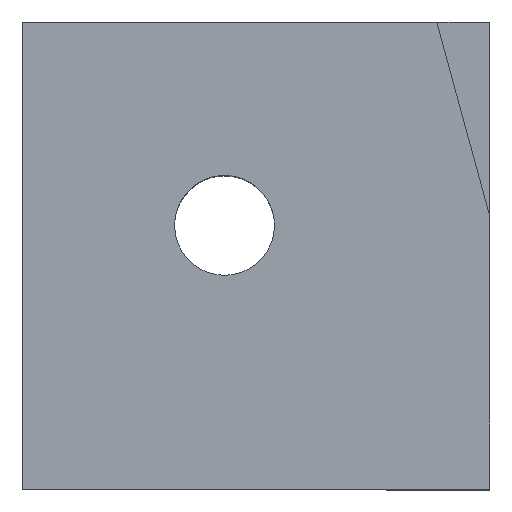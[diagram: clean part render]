
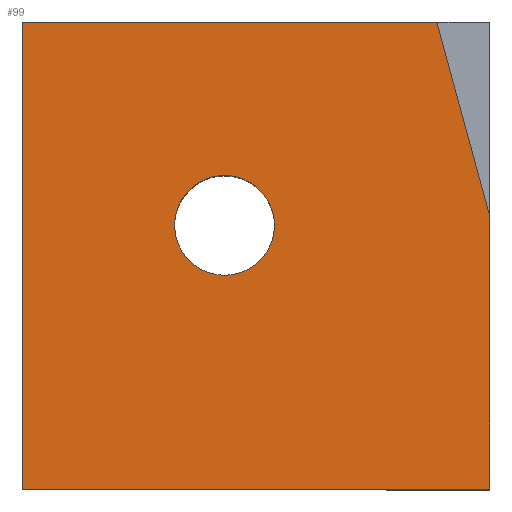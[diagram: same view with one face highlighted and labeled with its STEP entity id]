
A CAD part, top view. The second image highlights one B-rep face of the part: STEP entity #99.
In plain terms, the highlighted planar face has unit normal (0, 0, 1).
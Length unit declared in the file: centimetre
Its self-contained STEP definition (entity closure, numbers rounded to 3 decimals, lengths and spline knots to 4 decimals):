
#8 = DIRECTION ( 'NONE',  ( 1., 0., 0. ) ) ;
#11 = DIRECTION ( 'NONE',  ( 0.263, -0.965, 0. ) ) ;
#12 = CARTESIAN_POINT ( 'NONE',  ( 0., 1000., 1000. ) ) ;
#16 = FACE_BOUND ( 'NONE', #97, .T. ) ;
#25 = CARTESIAN_POINT ( 'NONE',  ( 1000., 585.9937, 1000. ) ) ;
#28 = LINE ( 'NONE', #401, #317 ) ;
#43 = LINE ( 'NONE', #12, #129 ) ;
#48 = EDGE_CURVE ( 'NONE', #288, #61, #151, .T. ) ;
#56 = VERTEX_POINT ( 'NONE', #122 ) ;
#60 = ORIENTED_EDGE ( 'NONE', *, *, #377, .T. ) ;
#61 = VERTEX_POINT ( 'NONE', #25 ) ;
#62 = EDGE_LOOP ( 'NONE', ( #269, #292, #168, #60, #96 ) ) ;
#63 = EDGE_CURVE ( 'NONE', #206, #56, #43, .T. ) ;
#70 = VECTOR ( 'NONE', #8, 100. ) ;
#85 = DIRECTION ( 'NONE',  ( 0., 0., -1. ) ) ;
#96 = ORIENTED_EDGE ( 'NONE', *, *, #48, .T. ) ;
#97 = EDGE_LOOP ( 'NONE', ( #204, #410 ) ) ;
#99 = ADVANCED_FACE ( 'NONE', ( #16, #418 ), #156, .T. ) ;
#107 = CIRCLE ( 'NONE', #338, 106.9421 ) ;
#109 = DIRECTION ( 'NONE',  ( 0., 0., 1. ) ) ;
#113 = DIRECTION ( 'NONE',  ( 0., -1., 0. ) ) ;
#122 = CARTESIAN_POINT ( 'NONE',  ( 0., 0., 1000. ) ) ;
#129 = VECTOR ( 'NONE', #113, 100. ) ;
#134 = CIRCLE ( 'NONE', #379, 106.9421 ) ;
#137 = EDGE_CURVE ( 'NONE', #323, #206, #28, .T. ) ;
#151 = LINE ( 'NONE', #423, #415 ) ;
#153 = LINE ( 'NONE', #311, #177 ) ;
#156 = PLANE ( 'NONE',  #202 ) ;
#168 = ORIENTED_EDGE ( 'NONE', *, *, #63, .T. ) ;
#174 = EDGE_CURVE ( 'NONE', #197, #442, #134, .T. ) ;
#177 = VECTOR ( 'NONE', #11, 100. ) ;
#180 = CARTESIAN_POINT ( 'NONE',  ( 887.0786, 1000., 1000. ) ) ;
#189 = CARTESIAN_POINT ( 'NONE',  ( 325.6752, 564.7779, 1000. ) ) ;
#197 = VERTEX_POINT ( 'NONE', #189 ) ;
#202 = AXIS2_PLACEMENT_3D ( 'NONE', #284, #109, #287 ) ;
#204 = ORIENTED_EDGE ( 'NONE', *, *, #174, .T. ) ;
#206 = VERTEX_POINT ( 'NONE', #294 ) ;
#214 = DIRECTION ( 'NONE',  ( -1., 0., 0. ) ) ;
#253 = CARTESIAN_POINT ( 'NONE',  ( 432.6173, 564.7779, 1000. ) ) ;
#254 = DIRECTION ( 'NONE',  ( -1., 0., 0. ) ) ;
#269 = ORIENTED_EDGE ( 'NONE', *, *, #339, .F. ) ;
#284 = CARTESIAN_POINT ( 'NONE',  ( 0., 0., 1000. ) ) ;
#287 = DIRECTION ( 'NONE',  ( 1., 0., 0. ) ) ;
#288 = VERTEX_POINT ( 'NONE', #424 ) ;
#292 = ORIENTED_EDGE ( 'NONE', *, *, #137, .T. ) ;
#293 = EDGE_CURVE ( 'NONE', #442, #197, #107, .T. ) ;
#294 = CARTESIAN_POINT ( 'NONE',  ( 0., 1000., 1000. ) ) ;
#305 = CARTESIAN_POINT ( 'NONE',  ( 0., 0., 1000. ) ) ;
#307 = DIRECTION ( 'NONE',  ( 0., 1., 0. ) ) ;
#311 = CARTESIAN_POINT ( 'NONE',  ( 1000., 585.9937, 1000. ) ) ;
#317 = VECTOR ( 'NONE', #254, 100. ) ;
#320 = CARTESIAN_POINT ( 'NONE',  ( 432.6173, 564.7779, 1000. ) ) ;
#323 = VERTEX_POINT ( 'NONE', #180 ) ;
#338 = AXIS2_PLACEMENT_3D ( 'NONE', #253, #387, #214 ) ;
#339 = EDGE_CURVE ( 'NONE', #323, #61, #153, .T. ) ;
#340 = LINE ( 'NONE', #305, #70 ) ;
#377 = EDGE_CURVE ( 'NONE', #56, #288, #340, .T. ) ;
#379 = AXIS2_PLACEMENT_3D ( 'NONE', #320, #85, #434 ) ;
#382 = CARTESIAN_POINT ( 'NONE',  ( 539.5594, 564.7779, 1000. ) ) ;
#387 = DIRECTION ( 'NONE',  ( 0., 0., -1. ) ) ;
#401 = CARTESIAN_POINT ( 'NONE',  ( 0., 1000., 1000. ) ) ;
#410 = ORIENTED_EDGE ( 'NONE', *, *, #293, .T. ) ;
#415 = VECTOR ( 'NONE', #307, 100. ) ;
#418 = FACE_OUTER_BOUND ( 'NONE', #62, .T. ) ;
#423 = CARTESIAN_POINT ( 'NONE',  ( 1000., 1000., 1000. ) ) ;
#424 = CARTESIAN_POINT ( 'NONE',  ( 1000., 0., 1000. ) ) ;
#434 = DIRECTION ( 'NONE',  ( -1., 0., 0. ) ) ;
#442 = VERTEX_POINT ( 'NONE', #382 ) ;
